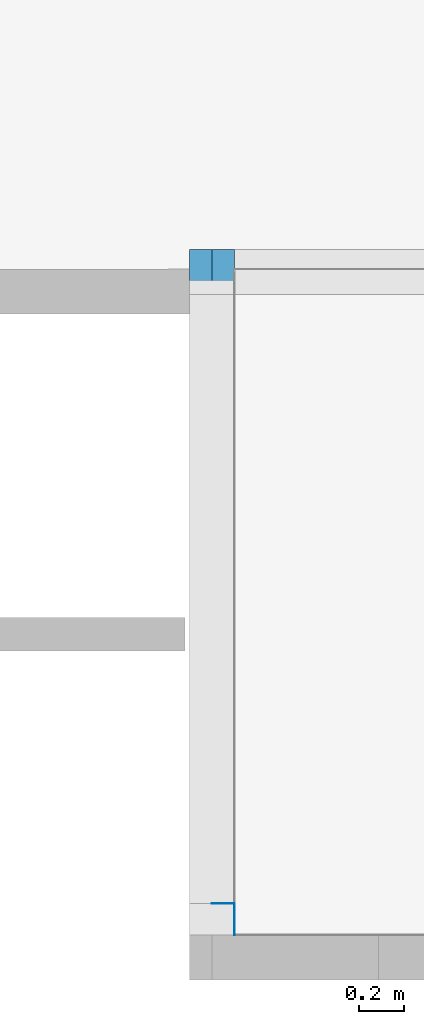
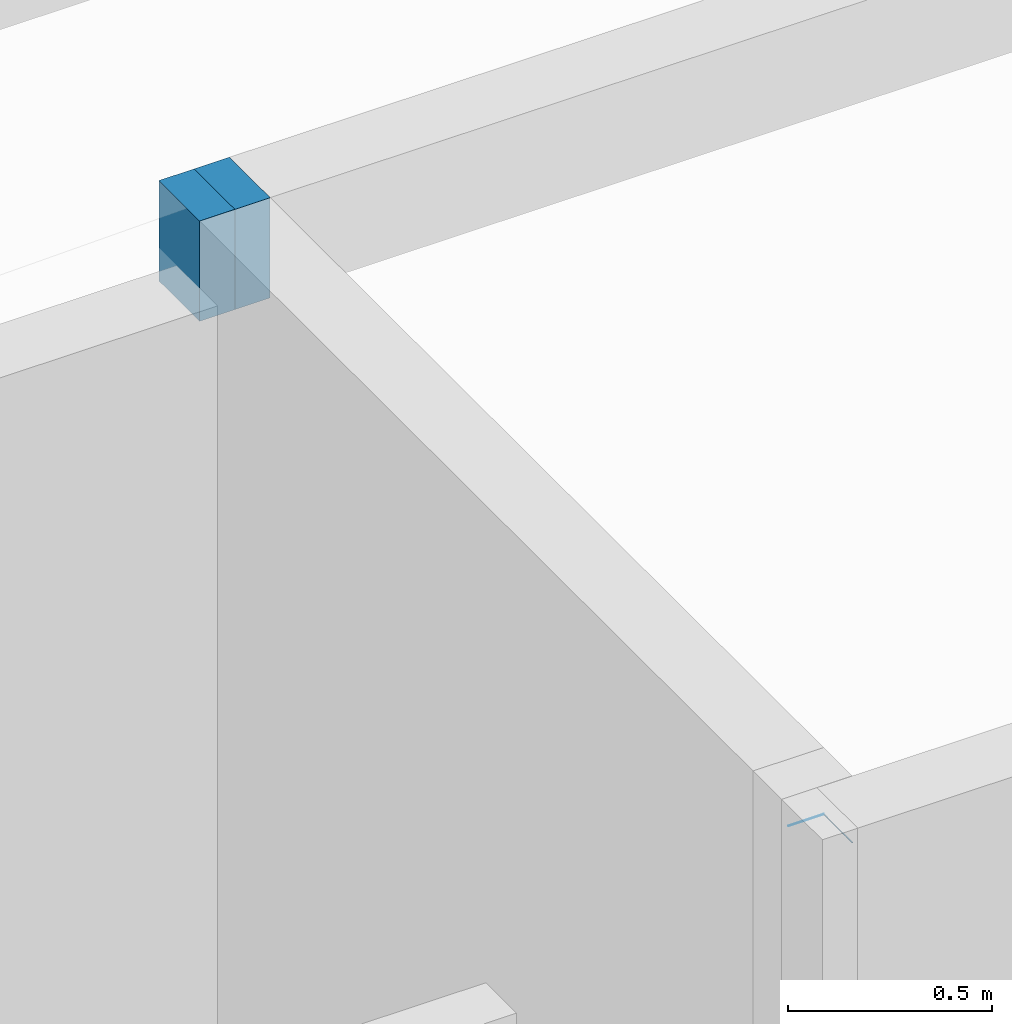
# One storey, part 3 of 11: 4 beams.
"""IFC2X3 building model written with IfcOpenShell, lengths in metres."""

from ifc_helpers import new_model, si_unit, direction, frame, origin_with_axes, place, context, subcontext, project, spatial, polyline, outline, extrude, material, type_object, element, save


model = new_model("IFC2X3")

# Units and contexts
model_context = context("Model", 3, precision=0.0001, world=origin_with_axes(), true_north=direction((0.0, 1.0)))
plan_context = context("Plan", 2, precision=0.0001, world=origin_with_axes(), true_north=direction((0.0, 1.0)))
body_context = subcontext(model_context, "Body", "Model", "MODEL_VIEW")
ifc_project = project(units=[si_unit("MASSUNIT", "GRAM", prefix="KILO"), si_unit("AREAUNIT", "SQUARE_METRE"), si_unit("LENGTHUNIT", "METRE"), si_unit("VOLUMEUNIT", "CUBIC_METRE")], contexts=[plan_context, model_context])

# Site, building, storey
site_placement = place(None, origin_with_axes())
site = spatial("IfcSite", under=ifc_project, at=site_placement, Name="$", CompositionType="ELEMENT")
building_placement = place(site_placement, origin_with_axes())
building = spatial("IfcBuilding", under=site, at=building_placement, Name="Classeur ENS Ensemble", CompositionType="ELEMENT")
storey_placement = place(building_placement, frame((-3.040468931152, -16.07714394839, 6.03), z_axis=(0.0, 0.0, 1.0), x_axis=(1.0, 0.0, 0.0)))
storey = spatial("IfcBuildingStorey", under=building, at=storey_placement, Name="003 R+2", CompositionType="ELEMENT", Elevation=6.03)

# Beams
ifc_material = material(Name="Default material")
beam_type = type_object("IfcBeamType", PredefinedType="BEAM")
beam_1_placement = place(storey_placement, frame((6.345975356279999, 4.285654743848, 2.400000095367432), z_axis=(0.0, 0.0, 1.0), x_axis=(1.0, 0.0, 0.0)))
element("IfcBeam", 1, at=beam_1_placement, inside=storey, type_object=beam_type, material=ifc_material, Name="poutre BA 20 x 30", context=body_context, shape_type="SweptSolid", held_by="IfcProductRepresentation", body=[
    extrude(outline(polyline([(0.0, 0.1000000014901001), (0.0, 0.1000000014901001), (0.0, 0.1000000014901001), (0.1000000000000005, 0.1000000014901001), (0.1000000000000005, 0.1000000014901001), (0.1000000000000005, 0.1000000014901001), (0.1000000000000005, -0.1000000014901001), (-1.490099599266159e-09, -0.1000000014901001), (-1.490099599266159e-09, -0.1000000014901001), (0.0, -0.1000000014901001), (0.0, -0.1000000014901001), (0.0, -0.1000000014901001), (0.0, 0.1000000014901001)])), origin_with_axes(), (0.0, 0.0, 1.0), 0.300000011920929),
])
beam_2_placement = place(storey_placement, frame((6.44597535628, 4.285654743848, 2.400000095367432), z_axis=(0.0, 0.0, 1.0), x_axis=(1.0, 0.0, 0.0)))
element("IfcBeam", 2, at=beam_2_placement, inside=storey, type_object=beam_type, material=ifc_material, Name="poutre BA 20 x 30", context=body_context, shape_type="SweptSolid", held_by="IfcProductRepresentation", body=[
    extrude(outline(polyline([(0.0, 0.1000000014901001), (0.0, 0.1000000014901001), (0.0, 0.1000000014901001), (0.09999999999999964, 0.1000000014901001), (0.09999999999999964, 0.1000000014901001), (0.09999999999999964, 0.1000000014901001), (0.09999999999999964, -0.1000000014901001), (0.09999999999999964, -0.1000000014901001), (0.09999999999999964, -0.1000000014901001), (0.1000000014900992, -0.1000000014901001), (0.1000000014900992, -0.1000000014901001), (0.0, -0.1000000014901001), (0.0, 0.1000000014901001)])), origin_with_axes(), (0.0, 0.0, 1.0), 0.300000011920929),
])
beam_3_placement = place(storey_placement, frame((6.44597535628, 1.472143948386, 2.5), z_axis=(0.0, 0.0, 1.0), x_axis=(1.0, 0.0, 0.0)))
element("IfcBeam", 3, at=beam_3_placement, inside=storey, type_object=beam_type, material=ifc_material, Name="poutre fictive 250", context=body_context, shape_type="SweptSolid", held_by="IfcProductRepresentation", body=[
    extrude(outline(polyline([(0.0, 0.0009999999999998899), (0.0, 0.0009999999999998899), (0.0, 0.0009999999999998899), (0.09999999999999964, 0.0009999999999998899), (0.09999999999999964, 0.0009999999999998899), (0.09999999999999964, 0.0009999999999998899), (0.09999999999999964, -0.001000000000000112), (0.09999999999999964, -0.001000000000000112), (0.09999999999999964, -0.001000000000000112), (0.0, -0.001000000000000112), (0.0, -0.001000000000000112), (0.0, -0.001000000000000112), (0.0, 0.0009999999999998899)])), origin_with_axes(), (0.0, 0.0, 1.0), 0.001),
])
beam_4_placement = place(storey_placement, frame((6.54597535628, 1.332143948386, 2.5), z_axis=(0.0, 0.0, 1.0), x_axis=(0.0, 1.0, 0.0)))
element("IfcBeam", 4, at=beam_4_placement, inside=storey, type_object=beam_type, material=ifc_material, Name="poutre fictive 250", context=body_context, shape_type="SweptSolid", held_by="IfcProductRepresentation", body=[
    extrude(outline(polyline([(0.0, 0.001000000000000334), (0.0, 0.001000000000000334), (0.0, 0.001000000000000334), (0.1400000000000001, 0.001000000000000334), (0.1400000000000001, 0.001000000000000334), (0.1400000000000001, 0.001000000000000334), (0.1400000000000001, -0.001000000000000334), (0.1400000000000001, -0.001000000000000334), (0.1400000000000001, -0.001000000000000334), (0.0, -0.001000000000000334), (0.0, -0.001000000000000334), (0.0, -0.001000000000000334), (0.0, 0.001000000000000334)])), origin_with_axes(), (0.0, 0.0, 1.0), 0.001),
])

save(model, "model.ifc")
